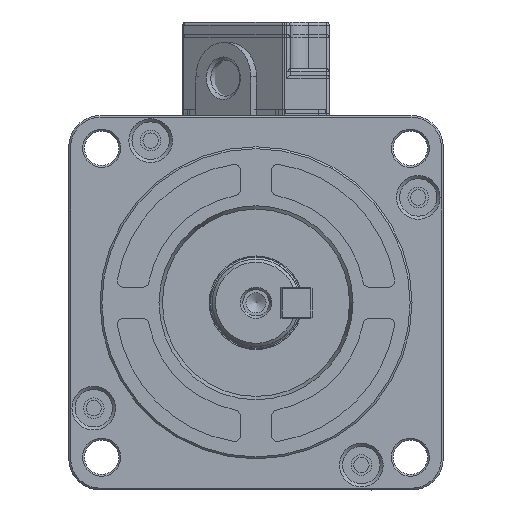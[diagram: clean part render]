
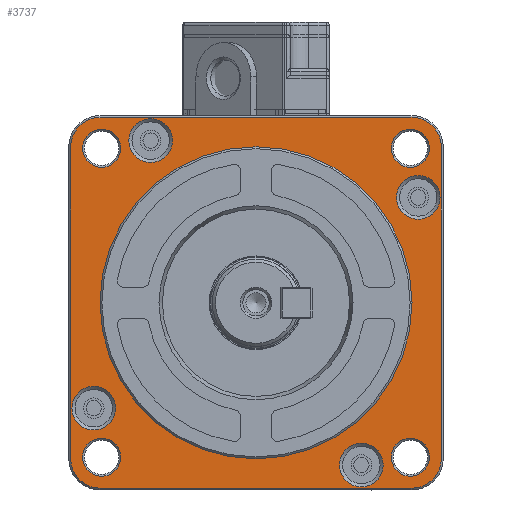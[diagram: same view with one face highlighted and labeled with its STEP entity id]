
A CAD part, left-side view. The second image highlights one B-rep face of the part: STEP entity #3737.
In plain terms, the highlighted planar face has unit normal (-1, 0, 0).
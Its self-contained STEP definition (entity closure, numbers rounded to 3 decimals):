
#3737 = ADVANCED_FACE( '', ( #7525, #7526, #7527, #7528, #7529, #7530, #7531, #7532, #7533, #7534 ), #7535, .T. );
#7525 = FACE_BOUND( '', #19138, .T. );
#7526 = FACE_BOUND( '', #19139, .T. );
#7527 = FACE_BOUND( '', #19140, .T. );
#7528 = FACE_BOUND( '', #19141, .T. );
#7529 = FACE_OUTER_BOUND( '', #19142, .T. );
#7530 = FACE_BOUND( '', #19143, .T. );
#7531 = FACE_BOUND( '', #19144, .T. );
#7532 = FACE_BOUND( '', #19145, .T. );
#7533 = FACE_BOUND( '', #19146, .T. );
#7534 = FACE_BOUND( '', #19147, .T. );
#7535 = PLANE( '', #19148 );
#19138 = EDGE_LOOP( '', ( #28237 ) );
#19139 = EDGE_LOOP( '', ( #28238 ) );
#19140 = EDGE_LOOP( '', ( #28239 ) );
#19141 = EDGE_LOOP( '', ( #28240 ) );
#19142 = EDGE_LOOP( '', ( #28241, #28242, #28243, #28244, #28245, #28246, #28247, #28248 ) );
#19143 = EDGE_LOOP( '', ( #28249 ) );
#19144 = EDGE_LOOP( '', ( #28250 ) );
#19145 = EDGE_LOOP( '', ( #28251 ) );
#19146 = EDGE_LOOP( '', ( #28252 ) );
#19147 = EDGE_LOOP( '', ( #28253 ) );
#19148 = AXIS2_PLACEMENT_3D( '', #28254, #28255, #28256 );
#28237 = ORIENTED_EDGE( '', *, *, #31701, .T. );
#28238 = ORIENTED_EDGE( '', *, *, #31597, .T. );
#28239 = ORIENTED_EDGE( '', *, *, #31027, .T. );
#28240 = ORIENTED_EDGE( '', *, *, #29574, .T. );
#28241 = ORIENTED_EDGE( '', *, *, #31172, .F. );
#28242 = ORIENTED_EDGE( '', *, *, #30908, .F. );
#28243 = ORIENTED_EDGE( '', *, *, #31552, .F. );
#28244 = ORIENTED_EDGE( '', *, *, #31959, .F. );
#28245 = ORIENTED_EDGE( '', *, *, #31483, .F. );
#28246 = ORIENTED_EDGE( '', *, *, #32096, .F. );
#28247 = ORIENTED_EDGE( '', *, *, #30839, .F. );
#28248 = ORIENTED_EDGE( '', *, *, #31857, .F. );
#28249 = ORIENTED_EDGE( '', *, *, #29545, .F. );
#28250 = ORIENTED_EDGE( '', *, *, #31963, .F. );
#28251 = ORIENTED_EDGE( '', *, *, #31723, .F. );
#28252 = ORIENTED_EDGE( '', *, *, #31784, .F. );
#28253 = ORIENTED_EDGE( '', *, *, #31347, .T. );
#28254 = CARTESIAN_POINT( '', ( 3., 0., 12.5 ) );
#28255 = DIRECTION( '', ( -1., 0., 0. ) );
#28256 = DIRECTION( '', ( 0., -1., 0. ) );
#29545 = EDGE_CURVE( '', #34127, #34127, #34128, .T. );
#29574 = EDGE_CURVE( '', #34172, #34172, #34173, .F. );
#30839 = EDGE_CURVE( '', #36020, #36022, #36023, .F. );
#30908 = EDGE_CURVE( '', #36117, #36119, #36120, .F. );
#31027 = EDGE_CURVE( '', #36269, #36269, #36270, .F. );
#31172 = EDGE_CURVE( '', #36119, #36450, #36451, .F. );
#31347 = EDGE_CURVE( '', #36662, #36662, #36663, .T. );
#31483 = EDGE_CURVE( '', #36822, #36824, #36825, .F. );
#31552 = EDGE_CURVE( '', #36901, #36117, #36903, .F. );
#31597 = EDGE_CURVE( '', #36954, #36954, #36955, .F. );
#31701 = EDGE_CURVE( '', #37070, #37070, #37071, .F. );
#31723 = EDGE_CURVE( '', #37096, #37096, #37097, .T. );
#31784 = EDGE_CURVE( '', #37163, #37163, #37164, .T. );
#31857 = EDGE_CURVE( '', #36450, #36020, #37250, .F. );
#31959 = EDGE_CURVE( '', #36824, #36901, #37362, .F. );
#31963 = EDGE_CURVE( '', #37366, #37366, #37367, .T. );
#32096 = EDGE_CURVE( '', #36022, #36822, #37501, .F. );
#34127 = VERTEX_POINT( '', #42898 );
#34128 = CIRCLE( '', #42899, 3.05 );
#34172 = VERTEX_POINT( '', #43024 );
#34173 = CIRCLE( '', #43025, 3.5 );
#36020 = VERTEX_POINT( '', #48637 );
#36022 = VERTEX_POINT( '', #48640 );
#36023 = CIRCLE( '', #48641, 4.7 );
#36117 = VERTEX_POINT( '', #48828 );
#36119 = VERTEX_POINT( '', #48831 );
#36120 = LINE( '', #48832, #48833 );
#36269 = VERTEX_POINT( '', #49226 );
#36270 = CIRCLE( '', #49227, 3.5 );
#36450 = VERTEX_POINT( '', #50319 );
#36451 = CIRCLE( '', #50320, 4.7 );
#36662 = VERTEX_POINT( '', #50952 );
#36663 = CIRCLE( '', #50953, 25. );
#36822 = VERTEX_POINT( '', #51329 );
#36824 = VERTEX_POINT( '', #51332 );
#36825 = CIRCLE( '', #51333, 4.7 );
#36901 = VERTEX_POINT( '', #51516 );
#36903 = CIRCLE( '', #51519, 4.7 );
#36954 = VERTEX_POINT( '', #51630 );
#36955 = CIRCLE( '', #51631, 3.5 );
#37070 = VERTEX_POINT( '', #51841 );
#37071 = CIRCLE( '', #51842, 3.5 );
#37096 = VERTEX_POINT( '', #52029 );
#37097 = CIRCLE( '', #52030, 3.05 );
#37163 = VERTEX_POINT( '', #52197 );
#37164 = CIRCLE( '', #52198, 3.05 );
#37250 = LINE( '', #52307, #52308 );
#37362 = LINE( '', #52560, #52561 );
#37366 = VERTEX_POINT( '', #52565 );
#37367 = CIRCLE( '', #52566, 3.05 );
#37501 = LINE( '', #52792, #52793 );
#42898 = CARTESIAN_POINT( '', ( 3., 21.699, -24.749 ) );
#42899 = AXIS2_PLACEMENT_3D( '', #54498, #54499, #54500 );
#43024 = CARTESIAN_POINT( '', ( 3., 13.384, 25.999 ) );
#43025 = AXIS2_PLACEMENT_3D( '', #54529, #54530, #54531 );
#48637 = CARTESIAN_POINT( '', ( 3., -25., 29.7 ) );
#48640 = CARTESIAN_POINT( '', ( 3., -29.7, 25. ) );
#48641 = AXIS2_PLACEMENT_3D( '', #56112, #56113, #56114 );
#48828 = CARTESIAN_POINT( '', ( 3., 29.7, -25. ) );
#48831 = CARTESIAN_POINT( '', ( 3., 29.7, 25. ) );
#48832 = CARTESIAN_POINT( '', ( 3., 29.7, 30. ) );
#48833 = VECTOR( '', #56189, 1000. );
#49226 = CARTESIAN_POINT( '', ( 3., -29.499, 16.884 ) );
#49227 = AXIS2_PLACEMENT_3D( '', #56336, #56337, #56338 );
#50319 = CARTESIAN_POINT( '', ( 3., 25., 29.7 ) );
#50320 = AXIS2_PLACEMENT_3D( '', #56481, #56482, #56483 );
#50952 = CARTESIAN_POINT( '', ( 3., 0., 25. ) );
#50953 = AXIS2_PLACEMENT_3D( '', #56671, #56672, #56673 );
#51329 = CARTESIAN_POINT( '', ( 3., -29.7, -25. ) );
#51332 = CARTESIAN_POINT( '', ( 3., -25., -29.7 ) );
#51333 = AXIS2_PLACEMENT_3D( '', #56821, #56822, #56823 );
#51516 = CARTESIAN_POINT( '', ( 3., 25., -29.7 ) );
#51519 = AXIS2_PLACEMENT_3D( '', #56890, #56891, #56892 );
#51630 = CARTESIAN_POINT( '', ( 3., -20.384, -25.999 ) );
#51631 = AXIS2_PLACEMENT_3D( '', #56929, #56930, #56931 );
#51841 = CARTESIAN_POINT( '', ( 3., 22.499, -16.884 ) );
#51842 = AXIS2_PLACEMENT_3D( '', #57024, #57025, #57026 );
#52029 = CARTESIAN_POINT( '', ( 3., -27.799, 24.749 ) );
#52030 = AXIS2_PLACEMENT_3D( '', #57044, #57045, #57046 );
#52197 = CARTESIAN_POINT( '', ( 3., -27.799, -24.749 ) );
#52198 = AXIS2_PLACEMENT_3D( '', #57101, #57102, #57103 );
#52307 = CARTESIAN_POINT( '', ( 3., -30., 29.7 ) );
#52308 = VECTOR( '', #57166, 1000. );
#52560 = CARTESIAN_POINT( '', ( 3., 30., -29.7 ) );
#52561 = VECTOR( '', #57238, 1000. );
#52565 = CARTESIAN_POINT( '', ( 3., 21.699, 24.749 ) );
#52566 = AXIS2_PLACEMENT_3D( '', #57239, #57240, #57241 );
#52792 = CARTESIAN_POINT( '', ( 3., -29.7, -30. ) );
#52793 = VECTOR( '', #57281, 1000. );
#54498 = CARTESIAN_POINT( '', ( 3., 24.749, -24.749 ) );
#54499 = DIRECTION( '', ( -1., 0., 0. ) );
#54500 = DIRECTION( '', ( 0., -1., 0. ) );
#54529 = CARTESIAN_POINT( '', ( 3., 16.884, 25.999 ) );
#54530 = DIRECTION( '', ( -1., 0., 0. ) );
#54531 = DIRECTION( '', ( 0., -1., 0. ) );
#56112 = CARTESIAN_POINT( '', ( 3., -25., 25. ) );
#56113 = DIRECTION( '', ( -1., 0., 0. ) );
#56114 = DIRECTION( '', ( 0., -1., 0. ) );
#56189 = DIRECTION( '', ( 0., 0., -1. ) );
#56336 = CARTESIAN_POINT( '', ( 3., -25.999, 16.884 ) );
#56337 = DIRECTION( '', ( -1., 0., 0. ) );
#56338 = DIRECTION( '', ( 0., -1., 0. ) );
#56481 = CARTESIAN_POINT( '', ( 3., 25., 25. ) );
#56482 = DIRECTION( '', ( -1., 0., 0. ) );
#56483 = DIRECTION( '', ( 0., -1., 0. ) );
#56671 = CARTESIAN_POINT( '', ( 3., 0., 0. ) );
#56672 = DIRECTION( '', ( 1., 0., 0. ) );
#56673 = DIRECTION( '', ( 0., 0., 1. ) );
#56821 = CARTESIAN_POINT( '', ( 3., -25., -25. ) );
#56822 = DIRECTION( '', ( -1., 0., 0. ) );
#56823 = DIRECTION( '', ( 0., -1., 0. ) );
#56890 = CARTESIAN_POINT( '', ( 3., 25., -25. ) );
#56891 = DIRECTION( '', ( -1., 0., 0. ) );
#56892 = DIRECTION( '', ( 0., -1., 0. ) );
#56929 = CARTESIAN_POINT( '', ( 3., -16.884, -25.999 ) );
#56930 = DIRECTION( '', ( -1., 0., 0. ) );
#56931 = DIRECTION( '', ( 0., -1., 0. ) );
#57024 = CARTESIAN_POINT( '', ( 3., 25.999, -16.884 ) );
#57025 = DIRECTION( '', ( -1., 0., 0. ) );
#57026 = DIRECTION( '', ( 0., -1., 0. ) );
#57044 = CARTESIAN_POINT( '', ( 3., -24.749, 24.749 ) );
#57045 = DIRECTION( '', ( -1., 0., 0. ) );
#57046 = DIRECTION( '', ( 0., -1., 0. ) );
#57101 = CARTESIAN_POINT( '', ( 3., -24.749, -24.749 ) );
#57102 = DIRECTION( '', ( -1., 0., 0. ) );
#57103 = DIRECTION( '', ( 0., -1., 0. ) );
#57166 = DIRECTION( '', ( 0., 1., 0. ) );
#57238 = DIRECTION( '', ( 0., -1., 0. ) );
#57239 = CARTESIAN_POINT( '', ( 3., 24.749, 24.749 ) );
#57240 = DIRECTION( '', ( -1., 0., 0. ) );
#57241 = DIRECTION( '', ( 0., -1., 0. ) );
#57281 = DIRECTION( '', ( 0., 0., 1. ) );
